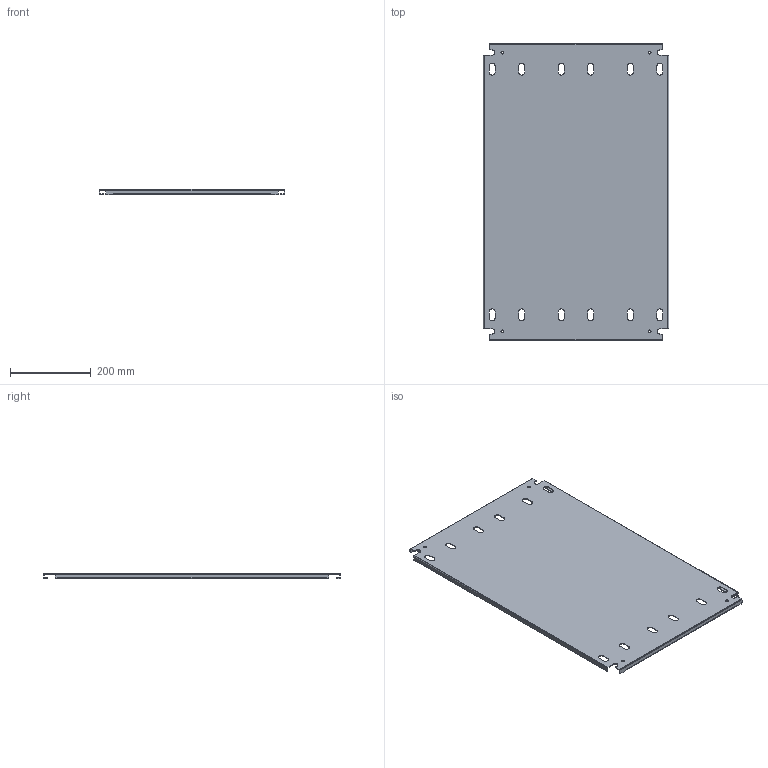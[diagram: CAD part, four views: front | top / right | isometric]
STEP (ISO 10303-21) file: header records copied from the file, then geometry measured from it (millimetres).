
FILE_DESCRIPTION(/* description */ ('1412BTCU 18.125" x 29" Inner Panel'),/* implementation_level */ '2;1');
FILE_NAME(/* name */ 'C:\Vault_Workspace\Inventor_Dwg\BoxCad\Result\1412BTCU04603\e-mail\3D\1412BTCU04603IP1.stp',/* time_stamp */ '2022-09-08T09:17:18-04:00',/* author */ ('BoxCad'),/* organization */ (''),/* preprocessor_version */ 'ST-DEVELOPER v18.1',/* originating_system */ 'Autodesk Inventor 2020',/* authorisation */ '');
FILE_SCHEMA (('AUTOMOTIVE_DESIGN { 1 0 10303 214 3 1 1 }'));
Length unit declared in the file: inch
Products named in the file (2): 1412BTCU04603IP1; 1412BTCU04603IP1-P
Assembly tree (1 placements, depth 2):
  1412BTCU04603IP1
    1412BTCU04603IP1-P
Bounding box: 460.38 x 736.6 x 13 mm (x, y, z)
Volume: 643505.5 mm3; surface area: 751429.3 mm2
Topology: 1 solids, 1 shells, 158 faces, 468 edges, 312 vertices
Faces by surface type: plane 90, cylinder 68
Full cylindrical faces by diameter (mm): 7.366 x4
Entity records: 5441 total; most frequent: CARTESIAN_POINT 941, ORIENTED_EDGE 936, DIRECTION 926, EDGE_CURVE 468, LINE 332, VECTOR 332, VERTEX_POINT 312, AXIS2_PLACEMENT_3D 297
